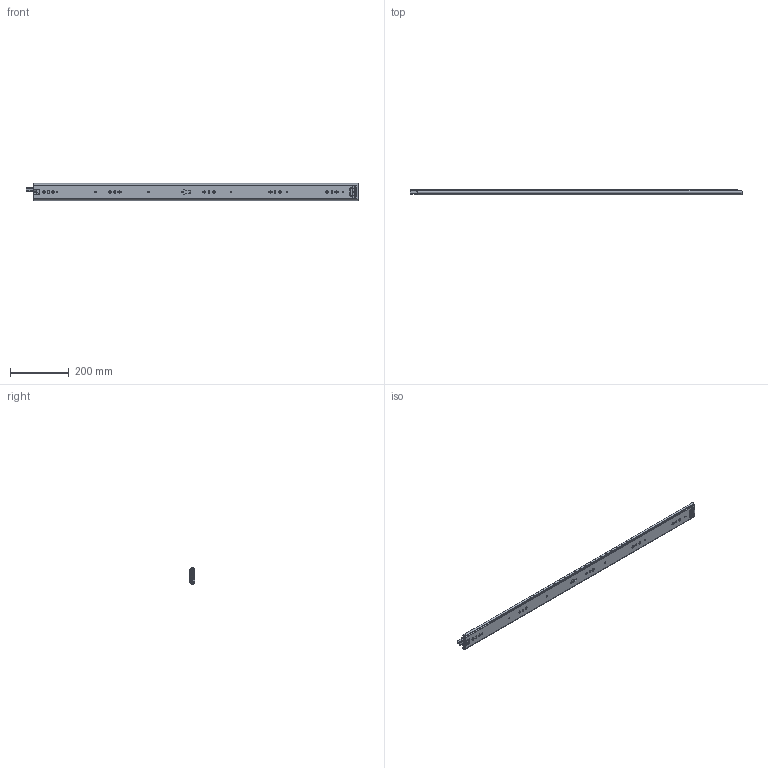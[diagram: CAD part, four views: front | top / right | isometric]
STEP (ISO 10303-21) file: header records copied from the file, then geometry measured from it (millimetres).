
FILE_DESCRIPTION((''),'2;1');
FILE_NAME('KP-57-01ZUZHUANGTU-44YOU_ASM','2023-04-04T',('jishu015'),(''),'PRO/ENGINEER BY PARAMETRIC TECHNOLOGY CORPORATION, 2010280','PRO/ENGINEER BY PARAMETRIC TECHNOLOGY CORPORATION, 2010280','');
FILE_SCHEMA(('CONFIG_CONTROL_DESIGN'));
Products named in the file (21): KP-57-01WEIKE-18______; 1057WEIJIAO______; WAIKE_____ASM; KP-57-01ZHONGGUI-18______; ZHONGGUIPEIJIAN-11____; ZHONGGUISUOKOU-11____; KP-57-01ZHONGGUI-18_______ASM; 1057XIAOZHUJIA______; 1057-5-6GANZHU______; 1057XIAOZHUJIA-14GE_______ASM; KP-57-01NEIGUI-18______; PJ-57-08____; DIAOPIAN-11____; 50XINSUOKOU-1____; 1053-3SBANJI122__; JIAO11__; KP-57-01NEIGUI-18_______ASM; 1053ZHUTIAO-175__________; 53-5-6GANZHU__________; 1053ZHUTIAO-175MM_____ASM; KP-57-01ZUZHUANGTU-44YOU_ASM
Assembly tree (119 placements, depth 3):
  KP-57-01ZUZHUANGTU-44YOU_ASM
    WAIKE_____ASM
      KP-57-01WEIKE-18______
      1057WEIJIAO______
    KP-57-01ZHONGGUI-18_______ASM
      KP-57-01ZHONGGUI-18______
      ZHONGGUIPEIJIAN-11____
      ZHONGGUISUOKOU-11____
    1057XIAOZHUJIA-14GE_______ASM
      1057XIAOZHUJIA______
      1057-5-6GANZHU______  x80
    KP-57-01NEIGUI-18_______ASM
      KP-57-01NEIGUI-18______
      PJ-57-08____
      DIAOPIAN-11____
      50XINSUOKOU-1____
      1053-3SBANJI122__
      JIAO11__
    1053ZHUTIAO-175MM_____ASM  x2
      1053ZHUTIAO-175__________
      53-5-6GANZHU__________
Bounding box: 1125.44 x 19 x 57.67 mm (x, y, z)
Volume: 484622.9 mm3; surface area: 529268 mm2
Topology: 135 solids, 135 shells, 3154 faces, 9162 edges, 5695 vertices
Faces by surface type: cylinder 1385, plane 1247, sphere 251, bspline 143, cone 86, extrusion 23, torus 19
Entity records: 100640 total; most frequent: CARTESIAN_POINT 24640, ORIENTED_EDGE 16108, DIRECTION 15666, EDGE_CURVE 8054, AXIS2_PLACEMENT_3D 5406, VERTEX_POINT 5203, VECTOR 4854, LINE 4831
